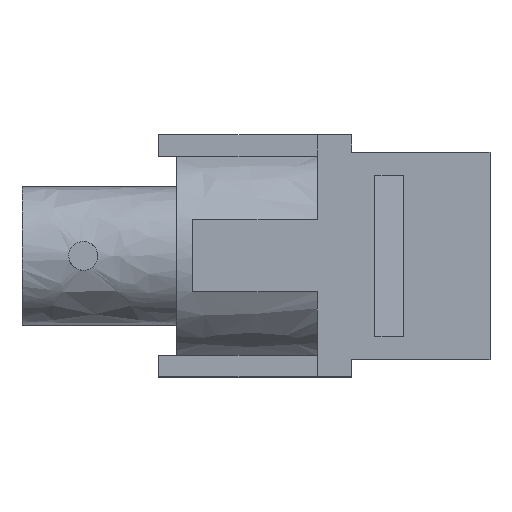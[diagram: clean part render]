
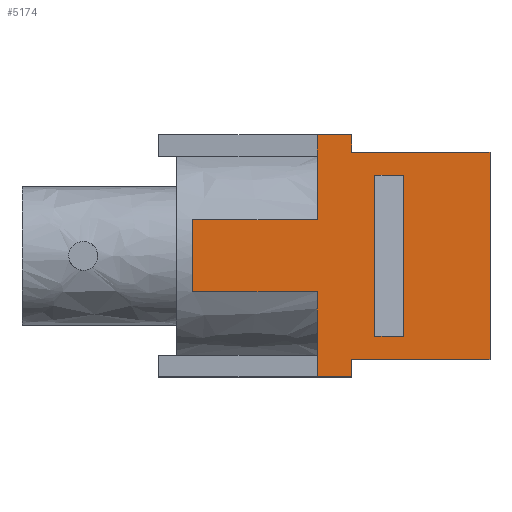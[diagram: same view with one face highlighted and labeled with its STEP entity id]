
A CAD part, top view. The second image highlights one B-rep face of the part: STEP entity #5174.
In plain terms, the highlighted free-form (B-spline) face has degree [1, 1] with [2, 2] control points.
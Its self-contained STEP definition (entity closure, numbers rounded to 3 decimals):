
#2284=CARTESIAN_POINT('',(11.,10.9,3.));
#2285=VERTEX_POINT('',#2284);
#2295=CARTESIAN_POINT('',(11.,16.8,3.));
#2296=VERTEX_POINT('',#2295);
#2297=CARTESIAN_POINT('',(11.,10.9,3.));
#2298=CARTESIAN_POINT('',(11.,12.08,3.));
#2299=CARTESIAN_POINT('',(11.,13.26,3.));
#2300=CARTESIAN_POINT('',(11.,14.44,3.));
#2301=CARTESIAN_POINT('',(11.,15.62,3.));
#2302=CARTESIAN_POINT('',(11.,16.8,3.));
#2303=B_SPLINE_CURVE_WITH_KNOTS('',5,(#2297,#2298,#2299,#2300,#2301,#2302),.UNSPECIFIED.,.F.,.U.,(6,6),(0.,5.9),.UNSPECIFIED.);
#2304=EDGE_CURVE('',#2285,#2296,#2303,.T.);
#2477=CARTESIAN_POINT('',(11.,0.,3.));
#2478=VERTEX_POINT('',#2477);
#2488=CARTESIAN_POINT('',(11.,5.9,3.));
#2489=VERTEX_POINT('',#2488);
#2490=CARTESIAN_POINT('',(11.,0.,3.));
#2491=CARTESIAN_POINT('',(11.,1.18,3.));
#2492=CARTESIAN_POINT('',(11.,2.36,3.));
#2493=CARTESIAN_POINT('',(11.,3.54,3.));
#2494=CARTESIAN_POINT('',(11.,4.72,3.));
#2495=CARTESIAN_POINT('',(11.,5.9,3.));
#2496=B_SPLINE_CURVE_WITH_KNOTS('',5,(#2490,#2491,#2492,#2493,#2494,#2495),.UNSPECIFIED.,.F.,.U.,(6,6),(0.,5.9),.UNSPECIFIED.);
#2497=EDGE_CURVE('',#2478,#2489,#2496,.T.);
#3392=CARTESIAN_POINT('',(2.36,5.9,3.));
#3393=VERTEX_POINT('',#3392);
#3403=CARTESIAN_POINT('',(2.36,10.9,3.));
#3404=VERTEX_POINT('',#3403);
#3405=CARTESIAN_POINT('',(2.36,5.9,3.));
#3406=CARTESIAN_POINT('',(2.36,6.9,3.));
#3407=CARTESIAN_POINT('',(2.36,7.9,3.));
#3408=CARTESIAN_POINT('',(2.36,8.9,3.));
#3409=CARTESIAN_POINT('',(2.36,9.9,3.));
#3410=CARTESIAN_POINT('',(2.36,10.9,3.));
#3411=B_SPLINE_CURVE_WITH_KNOTS('',5,(#3405,#3406,#3407,#3408,#3409,#3410),.UNSPECIFIED.,.F.,.U.,(6,6),(0.,5.),.UNSPECIFIED.);
#3412=EDGE_CURVE('',#3393,#3404,#3411,.T.);
#3432=CARTESIAN_POINT('',(11.,5.9,3.));
#3433=CARTESIAN_POINT('',(9.272,5.9,3.));
#3434=CARTESIAN_POINT('',(7.544,5.9,3.));
#3435=CARTESIAN_POINT('',(5.816,5.9,3.));
#3436=CARTESIAN_POINT('',(4.088,5.9,3.));
#3437=CARTESIAN_POINT('',(2.36,5.9,3.));
#3438=B_SPLINE_CURVE_WITH_KNOTS('',5,(#3432,#3433,#3434,#3435,#3436,#3437),.UNSPECIFIED.,.F.,.U.,(6,6),(0.,8.64),.UNSPECIFIED.);
#3439=EDGE_CURVE('',#2489,#3393,#3438,.T.);
#3503=CARTESIAN_POINT('',(2.36,10.9,3.));
#3504=CARTESIAN_POINT('',(4.088,10.9,3.));
#3505=CARTESIAN_POINT('',(5.816,10.9,3.));
#3506=CARTESIAN_POINT('',(7.544,10.9,3.));
#3507=CARTESIAN_POINT('',(9.272,10.9,3.));
#3508=CARTESIAN_POINT('',(11.,10.9,3.));
#3509=B_SPLINE_CURVE_WITH_KNOTS('',5,(#3503,#3504,#3505,#3506,#3507,#3508),.UNSPECIFIED.,.F.,.U.,(6,6),(0.,8.64),.UNSPECIFIED.);
#3510=EDGE_CURVE('',#3404,#2285,#3509,.T.);
#3989=CARTESIAN_POINT('',(13.4,15.6,3.));
#3990=VERTEX_POINT('',#3989);
#4000=CARTESIAN_POINT('',(13.4,16.8,3.));
#4001=VERTEX_POINT('',#4000);
#4002=CARTESIAN_POINT('',(13.4,15.6,3.));
#4003=CARTESIAN_POINT('',(13.4,15.84,3.));
#4004=CARTESIAN_POINT('',(13.4,16.08,3.));
#4005=CARTESIAN_POINT('',(13.4,16.32,3.));
#4006=CARTESIAN_POINT('',(13.4,16.56,3.));
#4007=CARTESIAN_POINT('',(13.4,16.8,3.));
#4008=B_SPLINE_CURVE_WITH_KNOTS('',5,(#4002,#4003,#4004,#4005,#4006,#4007),.UNSPECIFIED.,.F.,.U.,(6,6),(0.,1.2),.UNSPECIFIED.);
#4009=EDGE_CURVE('',#3990,#4001,#4008,.T.);
#4120=CARTESIAN_POINT('',(13.4,0.,3.));
#4121=VERTEX_POINT('',#4120);
#4131=CARTESIAN_POINT('',(13.4,1.2,3.));
#4132=VERTEX_POINT('',#4131);
#4133=CARTESIAN_POINT('',(13.4,0.,3.));
#4134=CARTESIAN_POINT('',(13.4,0.24,3.));
#4135=CARTESIAN_POINT('',(13.4,0.48,3.));
#4136=CARTESIAN_POINT('',(13.4,0.72,3.));
#4137=CARTESIAN_POINT('',(13.4,0.96,3.));
#4138=CARTESIAN_POINT('',(13.4,1.2,3.));
#4139=B_SPLINE_CURVE_WITH_KNOTS('',5,(#4133,#4134,#4135,#4136,#4137,#4138),.UNSPECIFIED.,.F.,.U.,(6,6),(0.,1.2),.UNSPECIFIED.);
#4140=EDGE_CURVE('',#4121,#4132,#4139,.T.);
#4449=CARTESIAN_POINT('',(11.,0.,3.));
#4450=CARTESIAN_POINT('',(11.48,0.,3.));
#4451=CARTESIAN_POINT('',(11.96,0.,3.));
#4452=CARTESIAN_POINT('',(12.44,0.,3.));
#4453=CARTESIAN_POINT('',(12.92,0.,3.));
#4454=CARTESIAN_POINT('',(13.4,0.,3.));
#4455=B_SPLINE_CURVE_WITH_KNOTS('',5,(#4449,#4450,#4451,#4452,#4453,#4454),.UNSPECIFIED.,.F.,.U.,(6,6),(0.,2.4),.UNSPECIFIED.);
#4456=EDGE_CURVE('',#2478,#4121,#4455,.T.);
#4547=CARTESIAN_POINT('',(11.,16.8,3.));
#4548=CARTESIAN_POINT('',(11.48,16.8,3.));
#4549=CARTESIAN_POINT('',(11.96,16.8,3.));
#4550=CARTESIAN_POINT('',(12.44,16.8,3.));
#4551=CARTESIAN_POINT('',(12.92,16.8,3.));
#4552=CARTESIAN_POINT('',(13.4,16.8,3.));
#4553=B_SPLINE_CURVE_WITH_KNOTS('',5,(#4547,#4548,#4549,#4550,#4551,#4552),.UNSPECIFIED.,.F.,.U.,(6,6),(0.,2.4),.UNSPECIFIED.);
#4554=EDGE_CURVE('',#2296,#4001,#4553,.T.);
#4845=CARTESIAN_POINT('',(17.,2.8,3.));
#4846=VERTEX_POINT('',#4845);
#4858=CARTESIAN_POINT('',(17.,14.,3.));
#4859=VERTEX_POINT('',#4858);
#4860=CARTESIAN_POINT('',(17.,14.,3.));
#4861=CARTESIAN_POINT('',(17.,11.76,3.));
#4862=CARTESIAN_POINT('',(17.,9.52,3.));
#4863=CARTESIAN_POINT('',(17.,7.28,3.));
#4864=CARTESIAN_POINT('',(17.,5.04,3.));
#4865=CARTESIAN_POINT('',(17.,2.8,3.));
#4866=B_SPLINE_CURVE_WITH_KNOTS('',5,(#4860,#4861,#4862,#4863,#4864,#4865),.UNSPECIFIED.,.F.,.U.,(6,6),(0.,11.2),.UNSPECIFIED.);
#4867=EDGE_CURVE('',#4859,#4846,#4866,.T.);
#4897=CARTESIAN_POINT('',(15.,2.8,3.));
#4898=VERTEX_POINT('',#4897);
#4909=CARTESIAN_POINT('',(15.,14.,3.));
#4910=VERTEX_POINT('',#4909);
#4920=CARTESIAN_POINT('',(15.,2.8,3.));
#4921=CARTESIAN_POINT('',(15.,5.04,3.));
#4922=CARTESIAN_POINT('',(15.,7.28,3.));
#4923=CARTESIAN_POINT('',(15.,9.52,3.));
#4924=CARTESIAN_POINT('',(15.,11.76,3.));
#4925=CARTESIAN_POINT('',(15.,14.,3.));
#4926=B_SPLINE_CURVE_WITH_KNOTS('',5,(#4920,#4921,#4922,#4923,#4924,#4925),.UNSPECIFIED.,.F.,.U.,(6,6),(0.,11.2),.UNSPECIFIED.);
#4927=EDGE_CURVE('',#4898,#4910,#4926,.T.);
#4937=CARTESIAN_POINT('',(17.,2.8,3.));
#4938=CARTESIAN_POINT('',(16.6,2.8,3.));
#4939=CARTESIAN_POINT('',(16.2,2.8,3.));
#4940=CARTESIAN_POINT('',(15.8,2.8,3.));
#4941=CARTESIAN_POINT('',(15.4,2.8,3.));
#4942=CARTESIAN_POINT('',(15.,2.8,3.));
#4943=B_SPLINE_CURVE_WITH_KNOTS('',5,(#4937,#4938,#4939,#4940,#4941,#4942),.UNSPECIFIED.,.F.,.U.,(6,6),(0.,2.),.UNSPECIFIED.);
#4944=EDGE_CURVE('',#4846,#4898,#4943,.T.);
#4956=CARTESIAN_POINT('',(15.,14.,3.));
#4957=CARTESIAN_POINT('',(15.4,14.,3.));
#4958=CARTESIAN_POINT('',(15.8,14.,3.));
#4959=CARTESIAN_POINT('',(16.2,14.,3.));
#4960=CARTESIAN_POINT('',(16.6,14.,3.));
#4961=CARTESIAN_POINT('',(17.,14.,3.));
#4962=B_SPLINE_CURVE_WITH_KNOTS('',5,(#4956,#4957,#4958,#4959,#4960,#4961),.UNSPECIFIED.,.F.,.U.,(6,6),(0.,2.),.UNSPECIFIED.);
#4963=EDGE_CURVE('',#4910,#4859,#4962,.T.);
#5108=CARTESIAN_POINT('',(23.,1.2,3.));
#5109=VERTEX_POINT('',#5108);
#5119=CARTESIAN_POINT('',(13.4,1.2,3.));
#5120=CARTESIAN_POINT('',(15.32,1.2,3.));
#5121=CARTESIAN_POINT('',(17.24,1.2,3.));
#5122=CARTESIAN_POINT('',(19.16,1.2,3.));
#5123=CARTESIAN_POINT('',(21.08,1.2,3.));
#5124=CARTESIAN_POINT('',(23.,1.2,3.));
#5125=B_SPLINE_CURVE_WITH_KNOTS('',5,(#5119,#5120,#5121,#5122,#5123,#5124),.UNSPECIFIED.,.F.,.U.,(6,6),(0.,9.6),.UNSPECIFIED.);
#5126=EDGE_CURVE('',#4132,#5109,#5125,.T.);
#5131=CARTESIAN_POINT('',(2.36,16.8,3.));
#5132=CARTESIAN_POINT('',(23.,16.8,3.));
#5133=CARTESIAN_POINT('',(2.36,0.,3.));
#5134=CARTESIAN_POINT('',(23.,0.,3.));
#5135=B_SPLINE_SURFACE_WITH_KNOTS('',1,1,((#5131,#5132),(#5133,#5134)),.PLANE_SURF.,.F.,.F.,.U.,(2,2),(2,2),(0.,1.),(0.,1.229),.UNSPECIFIED.);
#5136=ORIENTED_EDGE('',*,*,#5126,.T.);
#5137=CARTESIAN_POINT('',(23.,15.6,3.));
#5138=VERTEX_POINT('',#5137);
#5139=CARTESIAN_POINT('',(23.,15.6,3.));
#5140=CARTESIAN_POINT('',(23.,12.72,3.));
#5141=CARTESIAN_POINT('',(23.,9.84,3.));
#5142=CARTESIAN_POINT('',(23.,6.96,3.));
#5143=CARTESIAN_POINT('',(23.,4.08,3.));
#5144=CARTESIAN_POINT('',(23.,1.2,3.));
#5145=B_SPLINE_CURVE_WITH_KNOTS('',5,(#5139,#5140,#5141,#5142,#5143,#5144),.UNSPECIFIED.,.F.,.U.,(6,6),(0.,14.4),.UNSPECIFIED.);
#5146=EDGE_CURVE('',#5138,#5109,#5145,.T.);
#5147=ORIENTED_EDGE('',*,*,#5146,.F.);
#5148=CARTESIAN_POINT('',(13.4,15.6,3.));
#5149=CARTESIAN_POINT('',(15.32,15.6,3.));
#5150=CARTESIAN_POINT('',(17.24,15.6,3.));
#5151=CARTESIAN_POINT('',(19.16,15.6,3.));
#5152=CARTESIAN_POINT('',(21.08,15.6,3.));
#5153=CARTESIAN_POINT('',(23.,15.6,3.));
#5154=B_SPLINE_CURVE_WITH_KNOTS('',5,(#5148,#5149,#5150,#5151,#5152,#5153),.UNSPECIFIED.,.F.,.U.,(6,6),(0.,9.6),.UNSPECIFIED.);
#5155=EDGE_CURVE('',#3990,#5138,#5154,.T.);
#5156=ORIENTED_EDGE('',*,*,#5155,.F.);
#5157=ORIENTED_EDGE('',*,*,#4009,.T.);
#5158=ORIENTED_EDGE('',*,*,#4554,.F.);
#5159=ORIENTED_EDGE('',*,*,#2304,.F.);
#5160=ORIENTED_EDGE('',*,*,#3510,.F.);
#5161=ORIENTED_EDGE('',*,*,#3412,.F.);
#5162=ORIENTED_EDGE('',*,*,#3439,.F.);
#5163=ORIENTED_EDGE('',*,*,#2497,.F.);
#5164=ORIENTED_EDGE('',*,*,#4456,.T.);
#5165=ORIENTED_EDGE('',*,*,#4140,.T.);
#5166=EDGE_LOOP('',(#5136,#5147,#5156,#5157,#5158,#5159,#5160,#5161,#5162,#5163,#5164,#5165));
#5167=FACE_OUTER_BOUND('',#5166,.T.);
#5168=ORIENTED_EDGE('',*,*,#4927,.T.);
#5169=ORIENTED_EDGE('',*,*,#4963,.T.);
#5170=ORIENTED_EDGE('',*,*,#4867,.T.);
#5171=ORIENTED_EDGE('',*,*,#4944,.T.);
#5172=EDGE_LOOP('',(#5168,#5169,#5170,#5171));
#5173=FACE_BOUND('',#5172,.T.);
#5174=ADVANCED_FACE('',(#5167,#5173),#5135,.T.);
